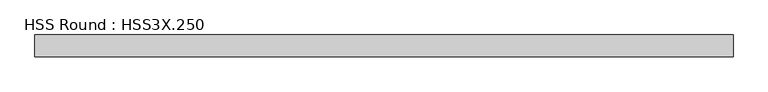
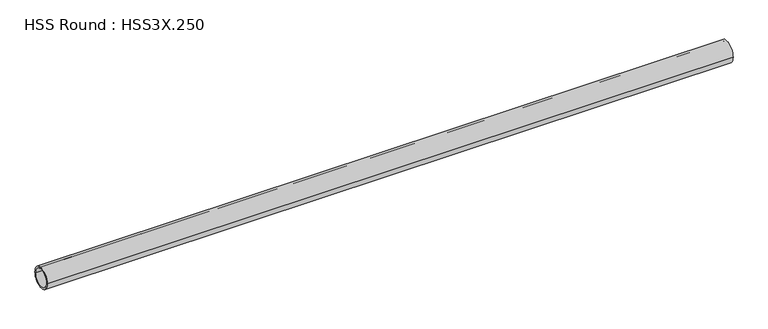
"""IFC4 building model written with IfcOpenShell, lengths in millimetres: member geometry, HSS Round : HSS3X.250."""

from ifc_helpers import new_model, si_unit, point, frame, origin, origin_2d, place, context, project, spatial, circle_curve, trimmed, segment, composite_curve, outline, extrude, source, transform, mapped, element, save


def hss_round_hss3x_250_293a73da(model_context):
    return source(origin(), model_context, "Body", "SweptSolid", [
        extrude(outline(composite_curve([segment(trimmed(circle_curve(origin_2d(), 38.1), [point((-38.1, 0.0))], [point((38.1, 0.0))], False, "CARTESIAN"), True, "CONTINUOUS"), segment(trimmed(circle_curve(origin_2d(), 38.1), [point((38.1, 0.0))], [point((-38.1, 0.0))], False, "CARTESIAN"), True, "CONTINUOUS")], self_intersect=False), holes=[composite_curve([segment(trimmed(circle_curve(origin_2d(), 31.75), [point((31.75, 0.0))], [point((-31.75, 0.0))], True, "CARTESIAN"), True, "CONTINUOUS"), segment(trimmed(circle_curve(origin_2d(), 31.75), [point((-31.75, 0.0))], [point((31.75, 0.0))], True, "CARTESIAN"), True, "CONTINUOUS")], self_intersect=False)]), frame((-1193.5228906, 0.0, 0.0), z_axis=(1.0, 0.0, 0.0), x_axis=(0.0, 1.0, 0.0)), (0.0, 0.0, 1.0), 2452.3989264),
    ])


if __name__ == "__main__":
    model = new_model("IFC4")
    model_context = context("Model", 3, world=origin())
    ifc_project = project(units=[si_unit("LENGTHUNIT", "METRE", prefix="MILLI")], contexts=[model_context])
    site = spatial("IfcSite", under=ifc_project)
    building = spatial("IfcBuilding", under=site)
    placement = place(None, origin())
    hss_round_hss3x_250_shape = hss_round_hss3x_250_293a73da(model_context)
    element("IfcMember", 1, ObjectType="HSS Round : HSS3X.250", at=placement, inside=building, context=model_context, shape_type="MappedRepresentation", body=[
        mapped(hss_round_hss3x_250_shape, transform((0.0, 0.0, 0.0), x_axis=(1.0, 0.0, 0.0), y_axis=(0.0, 1.0, 0.0), z_axis=(0.0, 0.0, 1.0))),
    ])
    save(model, "model.ifc")
